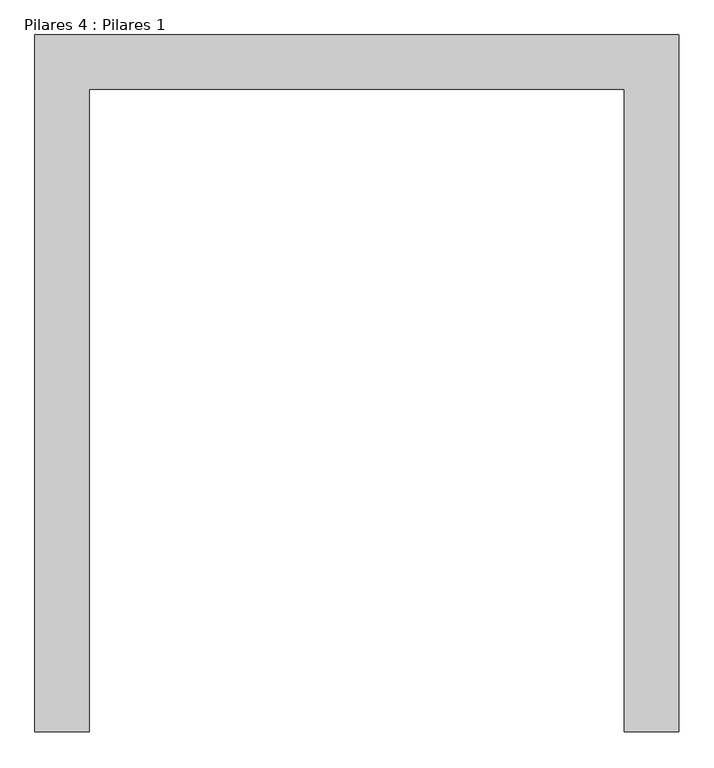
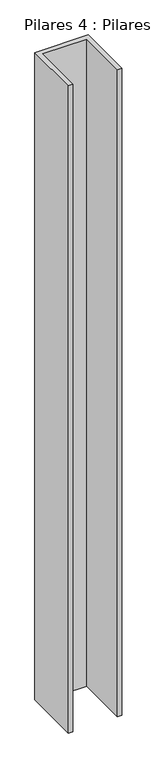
"""IFC4 building model written with IfcOpenShell, lengths in millimetres: column geometry, Pilares 4 : Pilares 1."""

from ifc_helpers import new_model, si_unit, frame, origin, place, context, project, spatial, polyline, outline, extrude, source, transform, mapped, element, save


def pilares_4_pilares_1_6b4ba50d(model_context):
    return source(origin(), model_context, "Body", "SweptSolid", [
        extrude(outline(polyline([(40424.5059119, 31743.9733508), (40424.5059119, 29744.010184), (40254.5059119, 29744.010184), (40254.5059119, 31913.9733508), (42259.5059119, 31913.9733508), (42259.5059119, 29744.010184), (42089.5059119, 29744.010184), (42089.5059119, 31743.9733508), (40424.5059119, 31743.9733508)])), frame((0.0, 0.0, -7800.0), z_axis=(0.0, 0.0, 1.0), x_axis=(1.0, 0.0, 0.0)), (0.0, 0.0, 1.0), 25600.0),
    ])


if __name__ == "__main__":
    model = new_model("IFC4")
    model_context = context("Model", 3, world=origin())
    ifc_project = project(units=[si_unit("LENGTHUNIT", "METRE", prefix="MILLI")], contexts=[model_context])
    site = spatial("IfcSite", under=ifc_project)
    building = spatial("IfcBuilding", under=site)
    placement = place(None, origin())
    pilares_4_pilares_1_shape = pilares_4_pilares_1_6b4ba50d(model_context)
    element("IfcColumn", 1, ObjectType="Pilares 4 : Pilares 1", at=placement, inside=building, context=model_context, shape_type="MappedRepresentation", body=[
        mapped(pilares_4_pilares_1_shape, transform((0.0, 0.0, 0.0), x_axis=(1.0, 0.0, 0.0), y_axis=(0.0, 1.0, 0.0), z_axis=(0.0, 0.0, 1.0))),
    ])
    save(model, "model.ifc")
